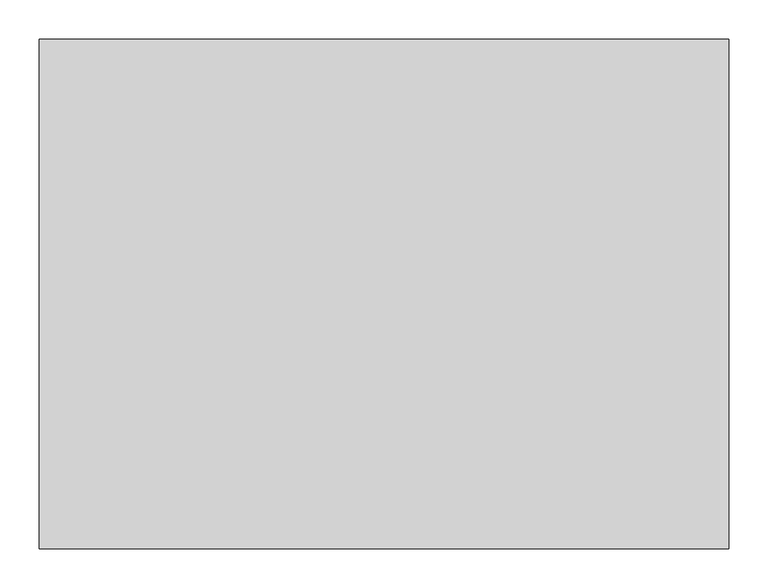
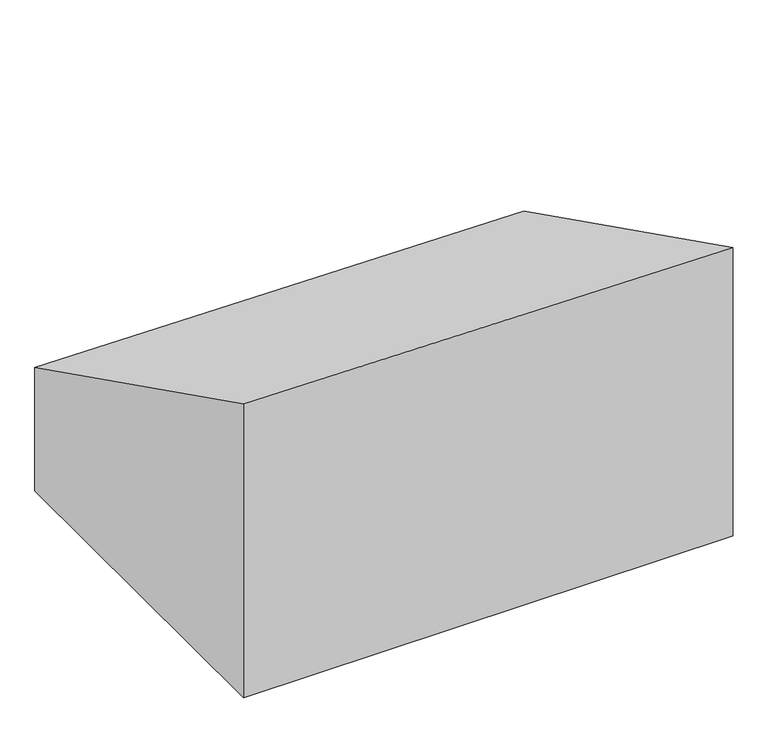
"""IFC4 building model written with IfcOpenShell, lengths in millimetres: proxy geometry, Murs caches C0a : Murs caches."""

from ifc_helpers import new_model, si_unit, origin, place, context, project, spatial, faceted_brep, source, transform, mapped, element, save


def generic_models_443c6c3d(model_context):
    return source(origin(), model_context, "Body", "Brep", [
        faceted_brep([(-6880.0, -3000.0, 4649.0), (-6880.0, -2350.0, 4324.0), (-6880.0, -2350.0, 4090.0), (-6880.0, -3000.0, 4090.0), (-6000.0, -3000.0, 4639.0), (-6000.0, -3000.0, 4090.0), (-6000.0, -2350.0, 4090.0), (-6000.0, -2350.0, 4314.0)], [[[0, 1, 2, 3]], [[4, 5, 6, 7]], [[5, 4, 0, 3]], [[6, 5, 3, 2]], [[7, 6, 2, 1]], [[4, 7, 1, 0]]]),
    ])


if __name__ == "__main__":
    model = new_model("IFC4")
    model_context = context("Model", 3, world=origin())
    ifc_project = project(units=[si_unit("LENGTHUNIT", "METRE", prefix="MILLI")], contexts=[model_context])
    site = spatial("IfcSite", under=ifc_project)
    building = spatial("IfcBuilding", under=site)
    placement = place(None, origin())
    generic_models_shape = generic_models_443c6c3d(model_context)
    element("IfcBuildingElementProxy", 1, Name="Murs caches C0a : Murs caches", ObjectType="Murs caches C0a : Murs caches", at=placement, inside=building, context=model_context, shape_type="MappedRepresentation", body=[
        mapped(generic_models_shape, transform((0.0, 0.0, 0.0), x_axis=(1.0, 0.0, 0.0), y_axis=(0.0, 1.0, 0.0), z_axis=(0.0, 0.0, 1.0))),
    ])
    save(model, "model.ifc")
